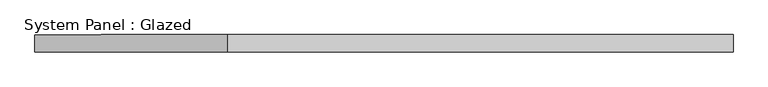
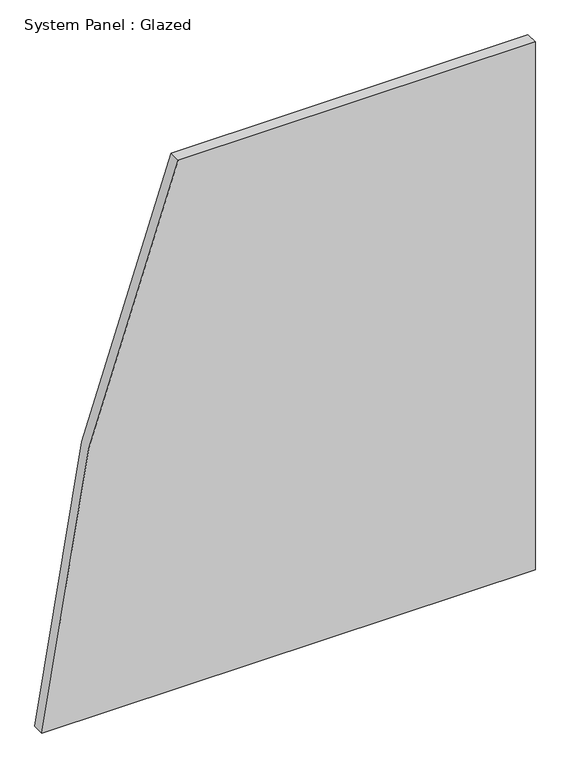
"""IFC4 building model written with IfcOpenShell, lengths in millimetres: plate geometry, System Panel : Glazed."""

from ifc_helpers import new_model, si_unit, point, frame, frame_2d, origin, place, context, project, spatial, polyline, circle_curve, trimmed, segment, composite_curve, outline, extrude, source, transform, mapped, element, save


def system_panel_glazed_00e24ec9(model_context):
    return source(origin(), model_context, "Body", "SweptSolid", [
        extrude(outline(composite_curve([segment(polyline([(0.0, -511.1558805), (0.0, 511.1558805), (1155.7, 511.1558805), (1155.7, -228.8371598)]), True, "CONTINUOUS"), segment(trimmed(circle_curve(frame_2d((-336.55, 3373.1915946)), 3898.9), [point((1155.7, -228.8371598))], [point((0.0, -511.1558805))], False, "CARTESIAN"), True, "CONTINUOUS")], self_intersect=False)), frame((0.0, -44.45, 0.0), z_axis=(0.0, 1.0, 0.0), x_axis=(0.0, 0.0, 1.0)), (0.0, 0.0, 1.0), 25.4),
    ])


if __name__ == "__main__":
    model = new_model("IFC4")
    model_context = context("Model", 3, world=origin())
    ifc_project = project(units=[si_unit("LENGTHUNIT", "METRE", prefix="MILLI")], contexts=[model_context])
    site = spatial("IfcSite", under=ifc_project)
    building = spatial("IfcBuilding", under=site)
    placement = place(None, origin())
    system_panel_glazed_shape = system_panel_glazed_00e24ec9(model_context)
    element("IfcPlate", 1, ObjectType="System Panel : Glazed", at=placement, inside=building, context=model_context, shape_type="MappedRepresentation", body=[
        mapped(system_panel_glazed_shape, transform((0.0, 0.0, 0.0), x_axis=(1.0, 0.0, 0.0), y_axis=(0.0, 1.0, 0.0), z_axis=(0.0, 0.0, 1.0))),
    ])
    save(model, "model.ifc")
